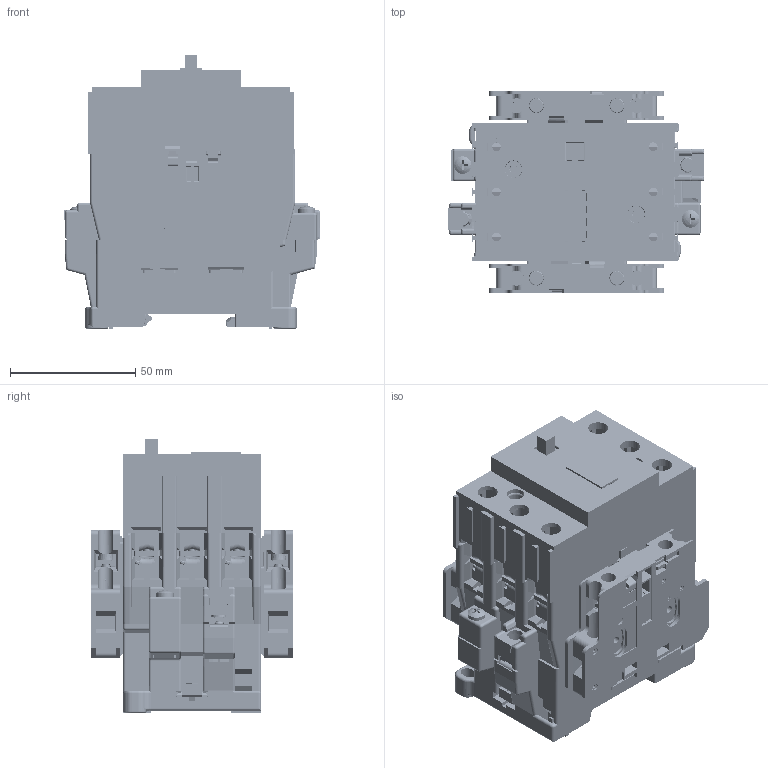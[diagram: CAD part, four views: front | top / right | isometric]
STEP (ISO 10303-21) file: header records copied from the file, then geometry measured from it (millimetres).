
FILE_DESCRIPTION((''),'2;1');
FILE_NAME('24000152P20_SW0001','2024-11-18T',('youjie.zhu'),(''),'PRO/ENGINEER BY PARAMETRIC TECHNOLOGY CORPORATION, 2015440','PRO/ENGINEER BY PARAMETRIC TECHNOLOGY CORPORATION, 2015440','');
FILE_SCHEMA(('CONFIG_CONTROL_DESIGN'));
Products named in the file (1): 24000152P20_SW0001
Bounding box: 102.5 x 80.4 x 109.1 mm (x, y, z)
Volume: 206073.2 mm3; surface area: 201757.3 mm2
Topology: 4 solids, 19 shells, 8155 faces, 23507 edges, 15176 vertices
Faces by surface type: plane 6124, cylinder 1635, torus 177, cone 120, bspline 60, sphere 39
Entity records: 275020 total; most frequent: CARTESIAN_POINT 59390, ORIENTED_EDGE 46938, DIRECTION 42581, EDGE_CURVE 23469, VECTOR 18579, LINE 18579, VERTEX_POINT 15176, AXIS2_PLACEMENT_3D 12001
